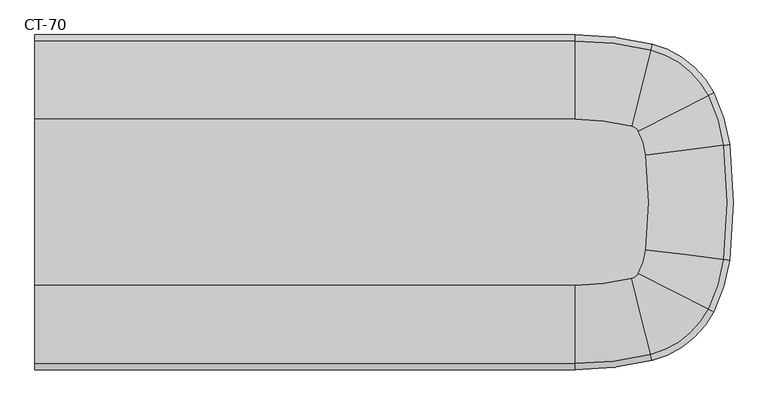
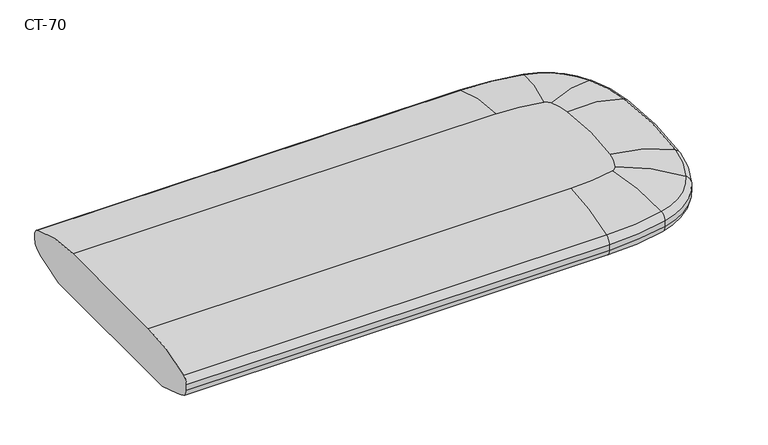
"""IFC4 building model written with IfcOpenShell, lengths in millimetres: furniture geometry, Davis_Furniture-Cantina-Backless_Bench_End : CT-70."""

from ifc_helpers import new_model, si_unit, point, frame, origin, place, context, project, spatial, polyline, circle_curve, ellipse_curve, trimmed, source, transform, mapped, element, save
from ifc_brep_helpers import plane_surface, cylinder_surface, revolved_surface, advanced_brep


def ct_70_ffbafca3(model_context):
    return source(origin(), model_context, "Body", "AdvancedBrep", [
        advanced_brep(
        [(499.6409128, 297.6255583, 384.3379698), (355.6, 315.0780274, 384.3379698), (355.6, 315.0780274, 397.7963214), (499.6409128, 297.6255583, 397.7963214), (497.0605174, 287.1334611, 364.5800367), (355.6, 304.2732811, 364.5800367), (494.2649463, 275.7664417, 358.7017243), (355.6, 292.5675411, 358.7017243), (490.3188196, 259.7211699, 352.9828937), (355.6, 276.0441436, 352.9828937), (475.8562537, 200.9152021, 333.8794297), (355.6, 215.4858439, 333.8794297), (496.8246288, 286.174319, 415.40969), (355.6, 303.2855579, 415.40969), (355.6, 156.3280274, 444.5), (461.728152, 143.4691927, 444.5), (615.3654955, 206.1477202, 397.7963214), (615.3654955, 206.1477202, 384.3379698), (605.7526212, 201.2146491, 364.5800367), (595.3381418, 195.8702156, 358.7017243), (580.637441, 188.3262075, 352.9828937), (526.7593298, 160.6773957, 333.8794297), (474.1272144, 133.6679958, 444.5), (604.8738538, 200.763689, 415.40969), (645.3484189, 108.6770068, 397.7963214), (645.3484189, 108.6770068, 384.3379698), (634.624926, 107.3544169, 364.5800367), (623.0072151, 105.921538, 358.7017243), (606.6080763, 103.8989381, 352.9828937), (546.505185, 96.4861037, 333.8794297), (487.792245, 89.2446999, 444.5), (633.6446307, 107.2335114, 415.40969), (645.3484189, -108.6770068, 397.7963214), (645.3484189, -108.6770068, 384.3379698), (634.624926, -107.3544169, 364.5800367), (623.0072151, -105.921538, 358.7017243), (606.6080763, -103.8989381, 352.9828937), (546.505185, -96.4861037, 333.8794297), (487.792245, -89.2446999, 444.5), (633.6446307, -107.2335114, 415.40969), (615.3654955, -206.1477202, 397.7963214), (615.3654955, -206.1477202, 384.3379698), (605.7526212, -201.2146491, 364.5800367), (595.3381418, -195.8702156, 358.7017243), (580.637441, -188.3262075, 352.9828937), (526.7593298, -160.6773957, 333.8794297), (474.1272144, -133.6679958, 444.5), (604.8738538, -200.763689, 415.40969), (499.6409128, -297.6255583, 397.7963214), (499.6409128, -297.6255583, 384.3379698), (497.0605174, -287.1334611, 364.5800367), (494.2649463, -275.7664417, 358.7017243), (490.3188196, -259.7211699, 352.9828937), (475.8562537, -200.9152021, 333.8794297), (461.728152, -143.4691927, 444.5), (496.8246288, -286.174319, 415.40969), (355.6, -315.0780274, 397.7963214), (355.6, -315.0780274, 384.3379698), (355.6, -304.2732811, 364.5800367), (355.6, -292.5675411, 358.7017243), (355.6, -276.0441436, 352.9828937), (355.6, -215.4858439, 333.8794297), (355.6, -156.3280274, 444.5), (355.6, -303.2855579, 415.40969), (-660.4, -315.0780274, 397.7963214), (-660.4, -315.0780274, 384.3379698), (-660.4, -304.2732811, 364.5800367), (-660.4, -292.5675411, 358.7017243), (-660.4, -276.0441436, 352.9828937), (-660.4, -215.4858439, 333.8794297), (-660.4, -156.3280274, 444.5), (-660.4, -303.2855579, 415.40969), (-660.4, 315.0780274, 384.3379698), (-660.4, 315.0780274, 397.7963214), (-660.4, 304.2732811, 364.5800367), (-660.4, 292.5675411, 358.7017243), (-660.4, 276.0441436, 352.9828937), (-660.4, 215.4858439, 333.8794297), (-660.4, 156.3280274, 444.5), (-660.4, 303.2855579, 415.40969)],
        [
            (0, 1, circle_curve(frame((355.6, -288.0564957, 384.3379698), z_axis=(0.0, 0.0, 1.0), x_axis=(0.0, 1.0, 0.0)), 603.1345231)),
            (1, 2),
            (2, 3, circle_curve(frame((355.6, -288.0564957, 397.7963214), z_axis=(0.0, 0.0, -1.0), x_axis=(0.0, 1.0, 0.0)), 603.1345231)),
            (3, 0),
            (0, 4, circle_curve(frame((494.0364172, 274.8372241, 384.3379698), z_axis=(-0.971063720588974, 0.23882054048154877, 0.0), x_axis=(0.23882054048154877, 0.971063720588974, 0.0)), 23.4673933)),
            (4, 5, circle_curve(frame((355.6, -288.0564957, 364.5800367), z_axis=(0.0, 0.0, 1.0), x_axis=(0.0, 1.0, 0.0)), 592.3297768)),
            (5, 1, circle_curve(frame((355.6, 291.6106342, 384.3379698), z_axis=(1.0, 0.0, 0.0), x_axis=(0.0, 1.0, 0.0)), 23.4673933)),
            (4, 6, circle_curve(frame((488.9739558, 254.2528447, 417.4135188), z_axis=(-0.971063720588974, 0.23882054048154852, 0.0), x_axis=(0.23882054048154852, 0.971063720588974, 0.0)), 62.7527231)),
            (6, 7, circle_curve(frame((355.6, -288.0564957, 358.7017243), z_axis=(0.0, 0.0, 1.0), x_axis=(0.0, 1.0, 0.0)), 580.6240368)),
            (7, 5, circle_curve(frame((355.6, 270.4128703, 417.4135188), z_axis=(1.0, 0.0, 0.0), x_axis=(0.0, 1.0, 0.0)), 62.7527231)),
            (6, 8, circle_curve(frame((467.578551, 167.2573905, 654.8289187), z_axis=(-0.9710637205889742, 0.23882054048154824, 0.0), x_axis=(0.23882054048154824, 0.9710637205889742, 0.0)), 316.5085989)),
            (8, 9, circle_curve(frame((355.6, -288.0564957, 352.9828937), z_axis=(0.0, 0.0, 1.0), x_axis=(0.0, 1.0, 0.0)), 564.1006393)),
            (9, 7, circle_curve(frame((355.6, 180.8250787, 654.8289187), z_axis=(1.0, 0.0, 0.0), x_axis=(0.0, 1.0, 0.0)), 316.5085989)),
            (8, 10),
            (10, 11, circle_curve(frame((355.6, -288.0564957, 333.8794297), z_axis=(0.0, 0.0, 1.0), x_axis=(0.0, 1.0, 0.0)), 503.5423396)),
            (11, 9),
            (12, 13, circle_curve(frame((355.6, -288.0564957, 415.40969), z_axis=(0.0, 0.0, 1.0), x_axis=(0.0, 1.0, 0.0)), 591.3420536)),
            (13, 14, circle_curve(frame((355.6, 156.3280274, 58.7570862), z_axis=(1.0, 0.0, 0.0), x_axis=(0.0, 1.0, 0.0)), 385.7429138)),
            (14, 15, circle_curve(frame((355.6, -288.0564957, 444.5), z_axis=(0.0, 0.0, -1.0), x_axis=(0.0, 1.0, 0.0)), 444.3845231)),
            (15, 12, circle_curve(frame((461.728152, 143.4691927, 58.7570862), z_axis=(-0.971063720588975, 0.2388205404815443, 0.0), x_axis=(0.2388205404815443, 0.971063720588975, 0.0)), 385.7429138)),
            (2, 13, circle_curve(frame((355.6, 296.0280274, 397.7963214), z_axis=(1.0, 0.0, 0.0), x_axis=(0.0, 1.0, 0.0)), 19.05)),
            (12, 3, circle_curve(frame((495.0913815, 279.1267945, 397.7963214), z_axis=(-0.971063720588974, 0.2388205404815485, 0.0), x_axis=(0.2388205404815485, 0.971063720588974, 0.0)), 19.05)),
            (3, 16, circle_curve(frame((457.1786207, 124.9704288, 397.7963214), z_axis=(0.0, 0.0, -1.0), x_axis=(0.2388205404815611, 0.971063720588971, 0.0)), 177.8)),
            (16, 17),
            (17, 0, circle_curve(frame((457.1786207, 124.9704288, 384.3379698), z_axis=(0.0, 0.0, 1.0), x_axis=(0.2388205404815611, 0.971063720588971, 0.0)), 177.8)),
            (17, 18, circle_curve(frame((594.4867914, 195.4333252, 384.3379698), z_axis=(-0.4565651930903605, 0.8896899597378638, 0.0), x_axis=(0.8896899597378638, 0.4565651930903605, 0.0)), 23.4673933)),
            (18, 4, circle_curve(frame((457.1786207, 124.9704288, 364.5800367), z_axis=(0.0, 0.0, 1.0), x_axis=(0.2388205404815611, 0.971063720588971, 0.0)), 166.9952536)),
            (18, 19, circle_curve(frame((575.6273537, 185.7551641, 417.4135188), z_axis=(-0.4565651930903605, 0.8896899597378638, 0.0), x_axis=(0.8896899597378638, 0.4565651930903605, 0.0)), 62.7527231)),
            (19, 6, circle_curve(frame((457.1786207, 124.9704288, 358.7017243), z_axis=(0.0, 0.0, 1.0), x_axis=(0.2388205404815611, 0.971063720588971, 0.0)), 155.2895137)),
            (19, 20, circle_curve(frame((495.921995, 144.8524967, 654.8289187), z_axis=(-0.4565651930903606, 0.8896899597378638, 0.0), x_axis=(0.8896899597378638, 0.4565651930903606, 0.0)), 316.5085989)),
            (20, 8, circle_curve(frame((457.1786207, 124.9704288, 352.9828937), z_axis=(0.0, 0.0, 1.0), x_axis=(0.2388205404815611, 0.971063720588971, 0.0)), 138.7661162)),
            (20, 21),
            (21, 10, circle_curve(frame((457.1786207, 124.9704288, 333.8794297), z_axis=(0.0, 0.0, 1.0), x_axis=(0.2388205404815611, 0.971063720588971, 0.0)), 78.2078165)),
            (15, 22, circle_curve(frame((457.1786207, 124.9704288, 444.5), z_axis=(0.0, 0.0, -1.0), x_axis=(0.2388205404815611, 0.971063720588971, 0.0)), 19.05)),
            (22, 23, circle_curve(frame((474.1272144, 133.6679958, 58.7570862), z_axis=(-0.45656519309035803, 0.8896899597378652, 0.0), x_axis=(0.8896899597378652, 0.45656519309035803, 0.0)), 385.7429138)),
            (23, 12, circle_curve(frame((457.1786207, 124.9704288, 415.40969), z_axis=(0.0, 0.0, 1.0), x_axis=(0.2388205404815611, 0.971063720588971, 0.0)), 166.0075305)),
            (23, 16, circle_curve(frame((598.4169018, 197.4501532, 397.7963214), z_axis=(-0.4565651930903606, 0.8896899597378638, 0.0), x_axis=(0.8896899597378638, 0.4565651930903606, 0.0)), 19.05)),
            (16, 24, circle_curve(frame((355.8505813, 72.9715776, 397.7963214), z_axis=(0.0, 0.0, -1.0), x_axis=(0.8896899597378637, 0.45656519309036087, 0.0)), 291.6914048)),
            (24, 25),
            (25, 17, circle_curve(frame((355.8505813, 72.9715776, 384.3379698), z_axis=(0.0, 0.0, 1.0), x_axis=(0.8896899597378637, 0.45656519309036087, 0.0)), 291.6914048)),
            (25, 26, circle_curve(frame((622.0575043, 105.8044047, 384.3379698), z_axis=(-0.12240823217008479, 0.9924798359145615, 0.0), x_axis=(0.9924798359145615, 0.12240823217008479, 0.0)), 23.4673933)),
            (26, 18, circle_curve(frame((355.8505813, 72.9715776, 364.5800367), z_axis=(0.0, 0.0, 1.0), x_axis=(0.8896899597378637, 0.45656519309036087, 0.0)), 280.8866585)),
            (26, 27, circle_curve(frame((601.0191511, 103.2096239, 417.4135188), z_axis=(-0.12240823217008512, 0.9924798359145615, 0.0), x_axis=(0.9924798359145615, 0.12240823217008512, 0.0)), 62.7527231)),
            (27, 19, circle_curve(frame((355.8505813, 72.9715776, 358.7017243), z_axis=(0.0, 0.0, 1.0), x_axis=(0.8896899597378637, 0.45656519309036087, 0.0)), 269.1809185)),
            (27, 28, circle_curve(frame((512.1050744, 92.2433407, 654.8289187), z_axis=(-0.1224082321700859, 0.9924798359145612, 0.0), x_axis=(0.9924798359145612, 0.1224082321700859, 0.0)), 316.5085989)),
            (28, 20, circle_curve(frame((355.8505813, 72.9715776, 352.9828937), z_axis=(0.0, 0.0, 1.0), x_axis=(0.8896899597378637, 0.45656519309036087, 0.0)), 252.657521)),
            (28, 29),
            (29, 21, circle_curve(frame((355.8505813, 72.9715776, 333.8794297), z_axis=(0.0, 0.0, 1.0), x_axis=(0.8896899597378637, 0.45656519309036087, 0.0)), 192.0992213)),
            (22, 30, circle_curve(frame((355.8505813, 72.9715776, 444.5), z_axis=(0.0, 0.0, -1.0), x_axis=(0.8896899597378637, 0.45656519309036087, 0.0)), 132.9414048)),
            (30, 31, circle_curve(frame((487.792245, 89.2446999, 58.7570862), z_axis=(-0.12240823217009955, 0.9924798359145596, 0.0), x_axis=(0.9924798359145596, 0.12240823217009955, 0.0)), 385.7429138)),
            (31, 23, circle_curve(frame((355.8505813, 72.9715776, 415.40969), z_axis=(0.0, 0.0, 1.0), x_axis=(0.8896899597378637, 0.45656519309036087, 0.0)), 279.8989353)),
            (31, 24, circle_curve(frame((626.441678, 106.34513, 397.7963214), z_axis=(-0.12240823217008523, 0.9924798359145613, 0.0), x_axis=(0.9924798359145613, 0.12240823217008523, 0.0)), 19.05)),
            (24, 32, circle_curve(frame((-235.7993271, 0.0, 397.7963214), z_axis=(0.0, 0.0, -1.0), x_axis=(0.9924798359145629, 0.12240823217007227, 0.0)), 887.8243307)),
            (32, 33),
            (33, 25, circle_curve(frame((-235.7993271, 0.0, 384.3379698), z_axis=(0.0, 0.0, 1.0), x_axis=(0.9924798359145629, 0.12240823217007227, 0.0)), 887.8243307)),
            (33, 34, circle_curve(frame((622.0575043, -105.8044047, 384.3379698), z_axis=(0.12240823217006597, 0.9924798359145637, 0.0), x_axis=(0.9924798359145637, -0.12240823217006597, 0.0)), 23.4673933)),
            (34, 26, circle_curve(frame((-235.7993271, 0.0, 364.5800367), z_axis=(0.0, 0.0, 1.0), x_axis=(0.9924798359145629, 0.12240823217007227, 0.0)), 877.0195843)),
            (34, 35, circle_curve(frame((601.0191511, -103.2096239, 417.4135188), z_axis=(0.12240823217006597, 0.9924798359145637, 0.0), x_axis=(0.9924798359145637, -0.12240823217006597, 0.0)), 62.7527231)),
            (35, 27, circle_curve(frame((-235.7993271, 0.0, 358.7017243), z_axis=(0.0, 0.0, 1.0), x_axis=(0.9924798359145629, 0.12240823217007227, 0.0)), 865.3138443)),
            (35, 36, circle_curve(frame((512.1050744, -92.2433407, 654.8289187), z_axis=(0.12240823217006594, 0.9924798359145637, 0.0), x_axis=(0.9924798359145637, -0.12240823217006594, 0.0)), 316.5085989)),
            (36, 28, circle_curve(frame((-235.7993271, 0.0, 352.9828937), z_axis=(0.0, 0.0, 1.0), x_axis=(0.9924798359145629, 0.12240823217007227, 0.0)), 848.7904469)),
            (36, 37),
            (37, 29, circle_curve(frame((-235.7993271, 0.0, 333.8794297), z_axis=(0.0, 0.0, 1.0), x_axis=(0.9924798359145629, 0.12240823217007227, 0.0)), 788.2321471)),
            (30, 38, circle_curve(frame((-235.7993271, 0.0, 444.5), z_axis=(0.0, 0.0, -1.0), x_axis=(0.9924798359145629, 0.12240823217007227, 0.0)), 729.0743307)),
            (38, 39, circle_curve(frame((487.792245, -89.2446999, 58.7570862), z_axis=(0.12240823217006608, 0.9924798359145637, 0.0), x_axis=(0.9924798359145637, -0.12240823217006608, 0.0)), 385.7429138)),
            (39, 31, circle_curve(frame((-235.7993271, 0.0, 415.40969), z_axis=(0.0, 0.0, 1.0), x_axis=(0.9924798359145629, 0.12240823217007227, 0.0)), 876.0318611)),
            (39, 32, circle_curve(frame((626.441678, -106.34513, 397.7963214), z_axis=(0.12240823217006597, 0.9924798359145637, 0.0), x_axis=(0.9924798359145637, -0.12240823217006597, 0.0)), 19.05)),
            (32, 40, circle_curve(frame((355.8505813, -72.9715776, 397.7963214), z_axis=(0.0, 0.0, -1.0), x_axis=(0.9924798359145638, -0.12240823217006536, 0.0)), 291.6914048)),
            (40, 41),
            (41, 33, circle_curve(frame((355.8505813, -72.9715776, 384.3379698), z_axis=(0.0, 0.0, 1.0), x_axis=(0.9924798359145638, -0.12240823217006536, 0.0)), 291.6914048)),
            (41, 42, circle_curve(frame((594.4867914, -195.4333252, 384.3379698), z_axis=(0.4565651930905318, 0.8896899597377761, 0.0), x_axis=(0.8896899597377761, -0.4565651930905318, 0.0)), 23.4673933)),
            (42, 34, circle_curve(frame((355.8505813, -72.9715776, 364.5800367), z_axis=(0.0, 0.0, 1.0), x_axis=(0.9924798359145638, -0.12240823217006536, 0.0)), 280.8866585)),
            (42, 43, circle_curve(frame((575.6273537, -185.7551641, 417.4135188), z_axis=(0.4565651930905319, 0.889689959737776, 0.0), x_axis=(0.889689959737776, -0.4565651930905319, 0.0)), 62.7527231)),
            (43, 35, circle_curve(frame((355.8505813, -72.9715776, 358.7017243), z_axis=(0.0, 0.0, 1.0), x_axis=(0.9924798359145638, -0.12240823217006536, 0.0)), 269.1809185)),
            (43, 44, circle_curve(frame((495.921995, -144.8524967, 654.8289187), z_axis=(0.4565651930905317, 0.8896899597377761, 0.0), x_axis=(0.8896899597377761, -0.4565651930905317, 0.0)), 316.5085989)),
            (44, 36, circle_curve(frame((355.8505813, -72.9715776, 352.9828937), z_axis=(0.0, 0.0, 1.0), x_axis=(0.9924798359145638, -0.12240823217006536, 0.0)), 252.657521)),
            (44, 45),
            (45, 37, circle_curve(frame((355.8505813, -72.9715776, 333.8794297), z_axis=(0.0, 0.0, 1.0), x_axis=(0.9924798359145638, -0.12240823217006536, 0.0)), 192.0992213)),
            (38, 46, circle_curve(frame((355.8505813, -72.9715776, 444.5), z_axis=(0.0, 0.0, -1.0), x_axis=(0.9924798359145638, -0.12240823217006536, 0.0)), 132.9414048)),
            (46, 47, circle_curve(frame((474.1272144, -133.6679958, 58.7570862), z_axis=(0.4565651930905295, 0.8896899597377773, 0.0), x_axis=(0.8896899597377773, -0.4565651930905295, 0.0)), 385.7429138)),
            (47, 39, circle_curve(frame((355.8505813, -72.9715776, 415.40969), z_axis=(0.0, 0.0, 1.0), x_axis=(0.9924798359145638, -0.12240823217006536, 0.0)), 279.8989353)),
            (47, 40, circle_curve(frame((598.4169018, -197.4501532, 397.7963214), z_axis=(0.45656519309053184, 0.8896899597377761, 0.0), x_axis=(0.8896899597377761, -0.45656519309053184, 0.0)), 19.05)),
            (40, 48, circle_curve(frame((457.1786207, -124.9704288, 397.7963214), z_axis=(0.0, 0.0, -1.0), x_axis=(0.8896899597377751, -0.45656519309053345, 0.0)), 177.8)),
            (48, 49),
            (49, 41, circle_curve(frame((457.1786207, -124.9704288, 384.3379698), z_axis=(0.0, 0.0, 1.0), x_axis=(0.8896899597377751, -0.45656519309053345, 0.0)), 177.8)),
            (49, 50, circle_curve(frame((494.0364172, -274.8372241, 384.3379698), z_axis=(0.9710637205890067, 0.23882054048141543, 0.0), x_axis=(0.23882054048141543, -0.9710637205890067, 0.0)), 23.4673933)),
            (50, 42, circle_curve(frame((457.1786207, -124.9704288, 364.5800367), z_axis=(0.0, 0.0, 1.0), x_axis=(0.8896899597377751, -0.45656519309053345, 0.0)), 166.9952536)),
            (50, 51, circle_curve(frame((488.9739558, -254.2528447, 417.4135188), z_axis=(0.9710637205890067, 0.23882054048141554, 0.0), x_axis=(0.23882054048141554, -0.9710637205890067, 0.0)), 62.7527231)),
            (51, 43, circle_curve(frame((457.1786207, -124.9704288, 358.7017243), z_axis=(0.0, 0.0, 1.0), x_axis=(0.8896899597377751, -0.45656519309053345, 0.0)), 155.2895137)),
            (51, 52, circle_curve(frame((467.578551, -167.2573905, 654.8289187), z_axis=(0.9710637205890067, 0.23882054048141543, 0.0), x_axis=(0.23882054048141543, -0.9710637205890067, 0.0)), 316.5085989)),
            (52, 44, circle_curve(frame((457.1786207, -124.9704288, 352.9828937), z_axis=(0.0, 0.0, 1.0), x_axis=(0.8896899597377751, -0.45656519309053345, 0.0)), 138.7661162)),
            (52, 53),
            (53, 45, circle_curve(frame((457.1786207, -124.9704288, 333.8794297), z_axis=(0.0, 0.0, 1.0), x_axis=(0.8896899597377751, -0.45656519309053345, 0.0)), 78.2078165)),
            (46, 54, circle_curve(frame((457.1786207, -124.9704288, 444.5), z_axis=(0.0, 0.0, -1.0), x_axis=(0.8896899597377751, -0.45656519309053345, 0.0)), 19.05)),
            (54, 55, circle_curve(frame((461.728152, -143.4691927, 58.7570862), z_axis=(0.9710637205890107, 0.23882054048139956, 0.0), x_axis=(0.23882054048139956, -0.9710637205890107, 0.0)), 385.7429138)),
            (55, 47, circle_curve(frame((457.1786207, -124.9704288, 415.40969), z_axis=(0.0, 0.0, 1.0), x_axis=(0.8896899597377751, -0.45656519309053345, 0.0)), 166.0075305)),
            (55, 48, circle_curve(frame((495.0913815, -279.1267945, 397.7963214), z_axis=(0.9710637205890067, 0.23882054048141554, 0.0), x_axis=(0.23882054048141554, -0.9710637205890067, 0.0)), 19.05)),
            (48, 56, circle_curve(frame((355.6, 288.0564957, 397.7963214), z_axis=(0.0, 0.0, -1.0), x_axis=(0.23882054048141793, -0.9710637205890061, 0.0)), 603.1345231)),
            (56, 57),
            (57, 49, circle_curve(frame((355.6, 288.0564957, 384.3379698), z_axis=(0.0, 0.0, 1.0), x_axis=(0.23882054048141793, -0.9710637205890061, 0.0)), 603.1345231)),
            (57, 58, circle_curve(frame((355.6, -291.6106342, 384.3379698), z_axis=(1.0, 0.0, 0.0), x_axis=(0.0, -1.0, 0.0)), 23.4673933)),
            (58, 50, circle_curve(frame((355.6, 288.0564957, 364.5800367), z_axis=(0.0, 0.0, 1.0), x_axis=(0.23882054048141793, -0.9710637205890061, 0.0)), 592.3297768)),
            (58, 59, circle_curve(frame((355.6, -270.4128703, 417.4135188), z_axis=(1.0, 0.0, 0.0), x_axis=(0.0, -1.0, 0.0)), 62.7527231)),
            (59, 51, circle_curve(frame((355.6, 288.0564957, 358.7017243), z_axis=(0.0, 0.0, 1.0), x_axis=(0.23882054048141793, -0.9710637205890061, 0.0)), 580.6240368)),
            (59, 60, circle_curve(frame((355.6, -180.8250787, 654.8289187), z_axis=(1.0, 0.0, 0.0), x_axis=(0.0, -1.0, 0.0)), 316.5085989)),
            (60, 52, circle_curve(frame((355.6, 288.0564957, 352.9828937), z_axis=(0.0, 0.0, 1.0), x_axis=(0.23882054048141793, -0.9710637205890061, 0.0)), 564.1006393)),
            (60, 61),
            (61, 53, circle_curve(frame((355.6, 288.0564957, 333.8794297), z_axis=(0.0, 0.0, 1.0), x_axis=(0.23882054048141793, -0.9710637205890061, 0.0)), 503.5423396)),
            (54, 62, circle_curve(frame((355.6, 288.0564957, 444.5), z_axis=(0.0, 0.0, -1.0), x_axis=(0.23882054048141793, -0.9710637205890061, 0.0)), 444.3845231)),
            (62, 63, circle_curve(frame((355.6, -156.3280274, 58.7570862), z_axis=(1.0, 0.0, 0.0), x_axis=(0.0, -1.0, 0.0)), 385.7429138)),
            (63, 55, circle_curve(frame((355.6, 288.0564957, 415.40969), z_axis=(0.0, 0.0, 1.0), x_axis=(0.23882054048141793, -0.9710637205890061, 0.0)), 591.3420536)),
            (63, 56, circle_curve(frame((355.6, -296.0280274, 397.7963214), z_axis=(1.0, 0.0, 0.0), x_axis=(0.0, -1.0, 0.0)), 19.05)),
            (56, 64),
            (64, 65),
            (65, 57),
            (65, 66, circle_curve(frame((-660.4, -291.6106342, 384.3379698), z_axis=(1.0, 0.0, 0.0), x_axis=(0.0, -1.0, 0.0)), 23.4673933)),
            (66, 58),
            (66, 67, circle_curve(frame((-660.4, -270.4128703, 417.4135188), z_axis=(1.0, 0.0, 0.0), x_axis=(0.0, -1.0, 0.0)), 62.7527231)),
            (67, 59),
            (67, 68, circle_curve(frame((-660.4, -180.8250787, 654.8289187), z_axis=(1.0, 0.0, 0.0), x_axis=(0.0, -1.0, 0.0)), 316.5085989)),
            (68, 60),
            (68, 69),
            (69, 61),
            (62, 70),
            (70, 71, circle_curve(frame((-660.4, -156.3280274, 58.7570862), z_axis=(1.0, 0.0, 0.0), x_axis=(0.0, -1.0, 0.0)), 385.7429138)),
            (71, 63),
            (71, 64, circle_curve(frame((-660.4, -296.0280274, 397.7963214), z_axis=(1.0, 0.0, 0.0), x_axis=(0.0, -1.0, 0.0)), 19.05)),
            (1, 72),
            (72, 73),
            (73, 2),
            (5, 74),
            (74, 72, circle_curve(frame((-660.4, 291.6106342, 384.3379698), z_axis=(1.0, 0.0, 0.0), x_axis=(0.0, 1.0, 0.0)), 23.4673933)),
            (7, 75),
            (75, 74, circle_curve(frame((-660.4, 270.4128703, 417.4135188), z_axis=(1.0, 0.0, 0.0), x_axis=(0.0, 1.0, 0.0)), 62.7527231)),
            (9, 76),
            (76, 75, circle_curve(frame((-660.4, 180.8250787, 654.8289187), z_axis=(1.0, 0.0, 0.0), x_axis=(0.0, 1.0, 0.0)), 316.5085989)),
            (11, 77),
            (77, 76),
            (69, 77),
            (14, 78),
            (78, 70),
            (13, 79),
            (79, 78, circle_curve(frame((-660.4, 156.3280274, 58.7570862), z_axis=(1.0, 0.0, 0.0), x_axis=(0.0, 1.0, 0.0)), 385.7429138)),
            (73, 79, circle_curve(frame((-660.4, 296.0280274, 397.7963214), z_axis=(1.0, 0.0, 0.0), x_axis=(0.0, 1.0, 0.0)), 19.05)),
        ],
        [
            cylinder_surface(frame((355.6, -288.0564957, 0.0), z_axis=(0.0, 0.0, -1.0), x_axis=(0.0, 1.0, 0.0)), 603.1345231),
            revolved_surface(trimmed(ellipse_curve(frame((355.6, 291.6106342, 384.3379698), z_axis=(-1.0, 0.0, 0.0), x_axis=(0.0, 1.0, 0.0)), 23.4673933, 23.4673933), [point((355.6, 315.0780274, 384.3379698))], [point((355.6, 304.2732811, 364.5800367))], True, "CARTESIAN"), (355.6, -288.0564957, 0.0), (0.0, 0.0, -1.0)),
            revolved_surface(trimmed(ellipse_curve(frame((355.6, 270.4128703, 417.4135188), z_axis=(-1.0, 0.0, 0.0), x_axis=(0.0, 1.0, 0.0)), 62.7527231, 62.7527231), [point((355.6, 304.2732811, 364.5800367))], [point((355.6, 292.5675411, 358.7017243))], True, "CARTESIAN"), (355.6, -288.0564957, 0.0), (0.0, 0.0, -1.0)),
            revolved_surface(trimmed(ellipse_curve(frame((355.6, 180.8250787, 654.8289187), z_axis=(-1.0, 0.0, 0.0), x_axis=(0.0, 1.0, 0.0)), 316.5085989, 316.5085989), [point((355.6, 292.5675411, 358.7017243))], [point((355.6, 276.0441436, 352.9828937))], True, "CARTESIAN"), (355.6, -288.0564957, 0.0), (0.0, 0.0, -1.0)),
            revolved_surface(polyline([(355.6, 276.0441436, 352.9828937), (355.6, 215.4858439, 333.8794297)]), (355.6, -288.0564957, 0.0), (0.0, 0.0, -1.0)),
            revolved_surface(trimmed(ellipse_curve(frame((355.6, 156.3280274, 58.7570862), z_axis=(-1.0, 0.0, 0.0), x_axis=(0.0, 1.0, 0.0)), 385.7429138, 385.7429138), [point((355.6, 156.3280274, 444.5))], [point((355.6, 303.2855579, 415.40969))], True, "CARTESIAN"), (355.6, -288.0564957, 0.0), (0.0, 0.0, -1.0)),
            revolved_surface(trimmed(ellipse_curve(frame((355.6, 296.0280274, 397.7963214), z_axis=(-1.0, 0.0, 0.0), x_axis=(0.0, 1.0, 0.0)), 19.05, 19.05), [point((355.6, 303.2855579, 415.40969))], [point((355.6, 315.0780274, 397.7963214))], True, "CARTESIAN"), (355.6, -288.0564957, 0.0), (0.0, 0.0, -1.0)),
            cylinder_surface(frame((457.1786207, 124.9704288, 0.0), z_axis=(0.0, 0.0, -1.0), x_axis=(0.2388205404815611, 0.971063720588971, 0.0)), 177.8),
            revolved_surface(trimmed(ellipse_curve(frame((494.0364172, 274.8372241, 384.3379698), z_axis=(-0.971063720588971, 0.23882054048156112, 0.0), x_axis=(0.23882054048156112, 0.971063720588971, 0.0)), 23.4673933, 23.4673933), [point((499.6409128, 297.6255583, 384.3379698))], [point((497.0605174, 287.1334611, 364.5800367))], True, "CARTESIAN"), (457.1786207, 124.9704288, 0.0), (0.0, 0.0, -1.0)),
            revolved_surface(trimmed(ellipse_curve(frame((488.9739558, 254.2528447, 417.4135188), z_axis=(-0.971063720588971, 0.23882054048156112, 0.0), x_axis=(0.23882054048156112, 0.971063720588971, 0.0)), 62.7527231, 62.7527231), [point((497.0605174, 287.1334611, 364.5800367))], [point((494.2649463, 275.7664417, 358.7017243))], True, "CARTESIAN"), (457.1786207, 124.9704288, 0.0), (0.0, 0.0, -1.0)),
            revolved_surface(trimmed(ellipse_curve(frame((467.578551, 167.2573905, 654.8289187), z_axis=(-0.971063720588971, 0.23882054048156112, 0.0), x_axis=(0.23882054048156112, 0.971063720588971, 0.0)), 316.5085989, 316.5085989), [point((494.2649463, 275.7664417, 358.7017243))], [point((490.3188196, 259.7211699, 352.9828937))], True, "CARTESIAN"), (457.1786207, 124.9704288, 0.0), (0.0, 0.0, -1.0)),
            revolved_surface(polyline([(490.3188196, 259.7211699, 352.9828937), (475.8562537, 200.9152021, 333.8794297)]), (457.1786207, 124.9704288, 0.0), (0.0, 0.0, -1.0)),
            revolved_surface(trimmed(ellipse_curve(frame((461.728152, 143.4691927, 58.7570862), z_axis=(-0.971063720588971, 0.23882054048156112, 0.0), x_axis=(0.23882054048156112, 0.971063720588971, 0.0)), 385.7429138, 385.7429138), [point((461.728152, 143.4691927, 444.5))], [point((496.8246288, 286.174319, 415.40969))], True, "CARTESIAN"), (457.1786207, 124.9704288, 0.0), (0.0, 0.0, -1.0)),
            revolved_surface(trimmed(ellipse_curve(frame((495.0913815, 279.1267945, 397.7963214), z_axis=(-0.971063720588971, 0.23882054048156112, 0.0), x_axis=(0.23882054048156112, 0.971063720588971, 0.0)), 19.05, 19.05), [point((496.8246288, 286.174319, 415.40969))], [point((499.6409128, 297.6255583, 397.7963214))], True, "CARTESIAN"), (457.1786207, 124.9704288, 0.0), (0.0, 0.0, -1.0)),
            cylinder_surface(frame((355.8505813, 72.9715776, 0.0), z_axis=(0.0, 0.0, -1.0), x_axis=(0.8896899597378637, 0.45656519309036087, 0.0)), 291.6914048),
            revolved_surface(trimmed(ellipse_curve(frame((594.4867914, 195.4333252, 384.3379698), z_axis=(-0.4565651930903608, 0.8896899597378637, 0.0), x_axis=(0.8896899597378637, 0.4565651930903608, 0.0)), 23.4673933, 23.4673933), [point((615.3654955, 206.1477202, 384.3379698))], [point((605.7526212, 201.2146491, 364.5800367))], True, "CARTESIAN"), (355.8505813, 72.9715776, 0.0), (0.0, 0.0, -1.0)),
            revolved_surface(trimmed(ellipse_curve(frame((575.6273537, 185.7551641, 417.4135188), z_axis=(-0.4565651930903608, 0.8896899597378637, 0.0), x_axis=(0.8896899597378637, 0.4565651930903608, 0.0)), 62.7527231, 62.7527231), [point((605.7526212, 201.2146491, 364.5800367))], [point((595.3381418, 195.8702156, 358.7017243))], True, "CARTESIAN"), (355.8505813, 72.9715776, 0.0), (0.0, 0.0, -1.0)),
            revolved_surface(trimmed(ellipse_curve(frame((495.921995, 144.8524967, 654.8289187), z_axis=(-0.4565651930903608, 0.8896899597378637, 0.0), x_axis=(0.8896899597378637, 0.4565651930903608, 0.0)), 316.5085989, 316.5085989), [point((595.3381418, 195.8702156, 358.7017243))], [point((580.637441, 188.3262075, 352.9828937))], True, "CARTESIAN"), (355.8505813, 72.9715776, 0.0), (0.0, 0.0, -1.0)),
            revolved_surface(polyline([(580.637441, 188.3262075, 352.9828937), (526.7593298, 160.6773957, 333.8794297)]), (355.8505813, 72.9715776, 0.0), (0.0, 0.0, -1.0)),
            revolved_surface(trimmed(ellipse_curve(frame((474.1272144, 133.6679958, 58.7570862), z_axis=(-0.4565651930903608, 0.8896899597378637, 0.0), x_axis=(0.8896899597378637, 0.4565651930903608, 0.0)), 385.7429138, 385.7429138), [point((474.1272144, 133.6679958, 444.5))], [point((604.8738538, 200.763689, 415.40969))], True, "CARTESIAN"), (355.8505813, 72.9715776, 0.0), (0.0, 0.0, -1.0)),
            revolved_surface(trimmed(ellipse_curve(frame((598.4169018, 197.4501532, 397.7963214), z_axis=(-0.4565651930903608, 0.8896899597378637, 0.0), x_axis=(0.8896899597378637, 0.4565651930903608, 0.0)), 19.05, 19.05), [point((604.8738538, 200.763689, 415.40969))], [point((615.3654955, 206.1477202, 397.7963214))], True, "CARTESIAN"), (355.8505813, 72.9715776, 0.0), (0.0, 0.0, -1.0)),
            cylinder_surface(frame((-235.7993271, 0.0, 0.0), z_axis=(0.0, 0.0, -1.0), x_axis=(0.9924798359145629, 0.12240823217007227, 0.0)), 887.8243307),
            revolved_surface(trimmed(ellipse_curve(frame((622.0575043, 105.8044047, 384.3379698), z_axis=(-0.1224082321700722, 0.9924798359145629, 0.0), x_axis=(0.9924798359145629, 0.1224082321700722, 0.0)), 23.4673933, 23.4673933), [point((645.3484189, 108.6770068, 384.3379698))], [point((634.624926, 107.3544169, 364.5800367))], True, "CARTESIAN"), (-235.7993271, 0.0, 0.0), (0.0, 0.0, -1.0)),
            revolved_surface(trimmed(ellipse_curve(frame((601.0191511, 103.2096239, 417.4135188), z_axis=(-0.1224082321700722, 0.9924798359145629, 0.0), x_axis=(0.9924798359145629, 0.1224082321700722, 0.0)), 62.7527231, 62.7527231), [point((634.624926, 107.3544169, 364.5800367))], [point((623.0072151, 105.921538, 358.7017243))], True, "CARTESIAN"), (-235.7993271, 0.0, 0.0), (0.0, 0.0, -1.0)),
            revolved_surface(trimmed(ellipse_curve(frame((512.1050744, 92.2433407, 654.8289187), z_axis=(-0.1224082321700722, 0.9924798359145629, 0.0), x_axis=(0.9924798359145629, 0.1224082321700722, 0.0)), 316.5085989, 316.5085989), [point((623.0072151, 105.921538, 358.7017243))], [point((606.6080763, 103.8989381, 352.9828937))], True, "CARTESIAN"), (-235.7993271, 0.0, 0.0), (0.0, 0.0, -1.0)),
            revolved_surface(polyline([(606.6080763, 103.8989381, 352.9828937), (546.505185, 96.4861037, 333.8794297)]), (-235.7993271, 0.0, 0.0), (0.0, 0.0, -1.0)),
            revolved_surface(trimmed(ellipse_curve(frame((487.792245, 89.2446999, 58.7570862), z_axis=(-0.1224082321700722, 0.9924798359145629, 0.0), x_axis=(0.9924798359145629, 0.1224082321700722, 0.0)), 385.7429138, 385.7429138), [point((487.792245, 89.2446999, 444.5))], [point((633.6446307, 107.2335114, 415.40969))], True, "CARTESIAN"), (-235.7993271, 0.0, 0.0), (0.0, 0.0, -1.0)),
            revolved_surface(trimmed(ellipse_curve(frame((626.441678, 106.34513, 397.7963214), z_axis=(-0.1224082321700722, 0.9924798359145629, 0.0), x_axis=(0.9924798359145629, 0.1224082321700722, 0.0)), 19.05, 19.05), [point((633.6446307, 107.2335114, 415.40969))], [point((645.3484189, 108.6770068, 397.7963214))], True, "CARTESIAN"), (-235.7993271, 0.0, 0.0), (0.0, 0.0, -1.0)),
            cylinder_surface(frame((355.8505813, -72.9715776, 0.0), z_axis=(0.0, 0.0, -1.0), x_axis=(0.9924798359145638, -0.12240823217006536, 0.0)), 291.6914048),
            revolved_surface(trimmed(ellipse_curve(frame((622.0575043, -105.8044047, 384.3379698), z_axis=(0.12240823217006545, 0.9924798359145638, 0.0), x_axis=(0.9924798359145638, -0.12240823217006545, 0.0)), 23.4673933, 23.4673933), [point((645.3484189, -108.6770068, 384.3379698))], [point((634.624926, -107.3544169, 364.5800367))], True, "CARTESIAN"), (355.8505813, -72.9715776, 0.0), (0.0, 0.0, -1.0)),
            revolved_surface(trimmed(ellipse_curve(frame((601.0191511, -103.2096239, 417.4135188), z_axis=(0.12240823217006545, 0.9924798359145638, 0.0), x_axis=(0.9924798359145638, -0.12240823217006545, 0.0)), 62.7527231, 62.7527231), [point((634.624926, -107.3544169, 364.5800367))], [point((623.0072151, -105.921538, 358.7017243))], True, "CARTESIAN"), (355.8505813, -72.9715776, 0.0), (0.0, 0.0, -1.0)),
            revolved_surface(trimmed(ellipse_curve(frame((512.1050744, -92.2433407, 654.8289187), z_axis=(0.12240823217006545, 0.9924798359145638, 0.0), x_axis=(0.9924798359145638, -0.12240823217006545, 0.0)), 316.5085989, 316.5085989), [point((623.0072151, -105.921538, 358.7017243))], [point((606.6080763, -103.8989381, 352.9828937))], True, "CARTESIAN"), (355.8505813, -72.9715776, 0.0), (0.0, 0.0, -1.0)),
            revolved_surface(polyline([(606.6080763, -103.8989381, 352.9828937), (546.505185, -96.4861037, 333.8794297)]), (355.8505813, -72.9715776, 0.0), (0.0, 0.0, -1.0)),
            revolved_surface(trimmed(ellipse_curve(frame((487.792245, -89.2446999, 58.7570862), z_axis=(0.12240823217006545, 0.9924798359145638, 0.0), x_axis=(0.9924798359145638, -0.12240823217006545, 0.0)), 385.7429138, 385.7429138), [point((487.792245, -89.2446999, 444.5))], [point((633.6446307, -107.2335114, 415.40969))], True, "CARTESIAN"), (355.8505813, -72.9715776, 0.0), (0.0, 0.0, -1.0)),
            revolved_surface(trimmed(ellipse_curve(frame((626.441678, -106.34513, 397.7963214), z_axis=(0.12240823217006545, 0.9924798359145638, 0.0), x_axis=(0.9924798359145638, -0.12240823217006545, 0.0)), 19.05, 19.05), [point((633.6446307, -107.2335114, 415.40969))], [point((645.3484189, -108.6770068, 397.7963214))], True, "CARTESIAN"), (355.8505813, -72.9715776, 0.0), (0.0, 0.0, -1.0)),
            cylinder_surface(frame((457.1786207, -124.9704288, 0.0), z_axis=(0.0, 0.0, -1.0), x_axis=(0.8896899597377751, -0.45656519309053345, 0.0)), 177.8),
            revolved_surface(trimmed(ellipse_curve(frame((594.4867914, -195.4333252, 384.3379698), z_axis=(0.45656519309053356, 0.8896899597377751, 0.0), x_axis=(0.8896899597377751, -0.45656519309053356, 0.0)), 23.4673933, 23.4673933), [point((615.3654955, -206.1477202, 384.3379698))], [point((605.7526212, -201.2146491, 364.5800367))], True, "CARTESIAN"), (457.1786207, -124.9704288, 0.0), (0.0, 0.0, -1.0)),
            revolved_surface(trimmed(ellipse_curve(frame((575.6273537, -185.7551641, 417.4135188), z_axis=(0.45656519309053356, 0.8896899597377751, 0.0), x_axis=(0.8896899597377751, -0.45656519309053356, 0.0)), 62.7527231, 62.7527231), [point((605.7526212, -201.2146491, 364.5800367))], [point((595.3381418, -195.8702156, 358.7017243))], True, "CARTESIAN"), (457.1786207, -124.9704288, 0.0), (0.0, 0.0, -1.0)),
            revolved_surface(trimmed(ellipse_curve(frame((495.921995, -144.8524967, 654.8289187), z_axis=(0.45656519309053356, 0.8896899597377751, 0.0), x_axis=(0.8896899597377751, -0.45656519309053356, 0.0)), 316.5085989, 316.5085989), [point((595.3381418, -195.8702156, 358.7017243))], [point((580.637441, -188.3262075, 352.9828937))], True, "CARTESIAN"), (457.1786207, -124.9704288, 0.0), (0.0, 0.0, -1.0)),
            revolved_surface(polyline([(580.637441, -188.3262075, 352.9828937), (526.7593298, -160.6773957, 333.8794297)]), (457.1786207, -124.9704288, 0.0), (0.0, 0.0, -1.0)),
            revolved_surface(trimmed(ellipse_curve(frame((474.1272144, -133.6679958, 58.7570862), z_axis=(0.45656519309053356, 0.8896899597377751, 0.0), x_axis=(0.8896899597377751, -0.45656519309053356, 0.0)), 385.7429138, 385.7429138), [point((474.1272144, -133.6679958, 444.5))], [point((604.8738538, -200.763689, 415.40969))], True, "CARTESIAN"), (457.1786207, -124.9704288, 0.0), (0.0, 0.0, -1.0)),
            revolved_surface(trimmed(ellipse_curve(frame((598.4169018, -197.4501532, 397.7963214), z_axis=(0.45656519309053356, 0.8896899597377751, 0.0), x_axis=(0.8896899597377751, -0.45656519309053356, 0.0)), 19.05, 19.05), [point((604.8738538, -200.763689, 415.40969))], [point((615.3654955, -206.1477202, 397.7963214))], True, "CARTESIAN"), (457.1786207, -124.9704288, 0.0), (0.0, 0.0, -1.0)),
            cylinder_surface(frame((355.6, 288.0564957, 0.0), z_axis=(0.0, 0.0, -1.0), x_axis=(0.23882054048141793, -0.9710637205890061, 0.0)), 603.1345231),
            revolved_surface(trimmed(ellipse_curve(frame((494.0364172, -274.8372241, 384.3379698), z_axis=(0.9710637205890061, 0.23882054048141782, 0.0), x_axis=(0.23882054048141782, -0.9710637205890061, 0.0)), 23.4673933, 23.4673933), [point((499.6409128, -297.6255583, 384.3379698))], [point((497.0605174, -287.1334611, 364.5800367))], True, "CARTESIAN"), (355.6, 288.0564957, 0.0), (0.0, 0.0, -1.0)),
            revolved_surface(trimmed(ellipse_curve(frame((488.9739558, -254.2528447, 417.4135188), z_axis=(0.9710637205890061, 0.23882054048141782, 0.0), x_axis=(0.23882054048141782, -0.9710637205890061, 0.0)), 62.7527231, 62.7527231), [point((497.0605174, -287.1334611, 364.5800367))], [point((494.2649463, -275.7664417, 358.7017243))], True, "CARTESIAN"), (355.6, 288.0564957, 0.0), (0.0, 0.0, -1.0)),
            revolved_surface(trimmed(ellipse_curve(frame((467.578551, -167.2573905, 654.8289187), z_axis=(0.9710637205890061, 0.23882054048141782, 0.0), x_axis=(0.23882054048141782, -0.9710637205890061, 0.0)), 316.5085989, 316.5085989), [point((494.2649463, -275.7664417, 358.7017243))], [point((490.3188196, -259.7211699, 352.9828937))], True, "CARTESIAN"), (355.6, 288.0564957, 0.0), (0.0, 0.0, -1.0)),
            revolved_surface(polyline([(490.3188196, -259.7211699, 352.9828937), (475.8562537, -200.9152021, 333.8794297)]), (355.6, 288.0564957, 0.0), (0.0, 0.0, -1.0)),
            revolved_surface(trimmed(ellipse_curve(frame((461.728152, -143.4691927, 58.7570862), z_axis=(0.9710637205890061, 0.23882054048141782, 0.0), x_axis=(0.23882054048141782, -0.9710637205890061, 0.0)), 385.7429138, 385.7429138), [point((461.728152, -143.4691927, 444.5))], [point((496.8246288, -286.174319, 415.40969))], True, "CARTESIAN"), (355.6, 288.0564957, 0.0), (0.0, 0.0, -1.0)),
            revolved_surface(trimmed(ellipse_curve(frame((495.0913815, -279.1267945, 397.7963214), z_axis=(0.9710637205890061, 0.23882054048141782, 0.0), x_axis=(0.23882054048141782, -0.9710637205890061, 0.0)), 19.05, 19.05), [point((496.8246288, -286.174319, 415.40969))], [point((499.6409128, -297.6255583, 397.7963214))], True, "CARTESIAN"), (355.6, 288.0564957, 0.0), (0.0, 0.0, -1.0)),
            plane_surface(frame((355.6, -315.0780274, 397.7963214), z_axis=(0.0, -1.0, 0.0), x_axis=(-1.0, 0.0, 0.0))),
            cylinder_surface(frame((355.6, -291.6106342, 384.3379698), z_axis=(1.0, 0.0, 0.0), x_axis=(0.0, -1.0, 0.0)), 23.4673933),
            cylinder_surface(frame((355.6, -270.4128703, 417.4135188), z_axis=(1.0, 0.0, 0.0), x_axis=(0.0, -1.0, 0.0)), 62.7527231),
            cylinder_surface(frame((355.6, -180.8250787, 654.8289187), z_axis=(1.0, 0.0, 0.0), x_axis=(0.0, -1.0, 0.0)), 316.5085989),
            plane_surface(frame((355.6, -276.0441436, 352.9828937), z_axis=(0.0, -0.3008419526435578, -0.9536740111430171), x_axis=(-1.0, 0.0, 0.0))),
            cylinder_surface(frame((355.6, -156.3280274, 58.7570862), z_axis=(1.0, 0.0, 0.0), x_axis=(0.0, -1.0, 0.0)), 385.7429138),
            cylinder_surface(frame((355.6, -296.0280274, 397.7963214), z_axis=(1.0, 0.0, 0.0), x_axis=(0.0, -1.0, 0.0)), 19.05),
            plane_surface(frame((-660.4, 315.0780274, 397.7963214), z_axis=(0.0, 1.0, 0.0), x_axis=(1.0, 0.0, 0.0))),
            cylinder_surface(frame((-660.4, 291.6106342, 384.3379698), z_axis=(-1.0, 0.0, 0.0), x_axis=(0.0, 1.0, 0.0)), 23.4673933),
            cylinder_surface(frame((-660.4, 270.4128703, 417.4135188), z_axis=(-1.0, 0.0, 0.0), x_axis=(0.0, 1.0, 0.0)), 62.7527231),
            cylinder_surface(frame((-660.4, 180.8250787, 654.8289187), z_axis=(-1.0, 0.0, 0.0), x_axis=(0.0, 1.0, 0.0)), 316.5085989),
            plane_surface(frame((-660.4, 276.0441436, 352.9828937), z_axis=(0.0, 0.30084195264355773, -0.9536740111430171), x_axis=(1.0, 0.0, 0.0))),
            plane_surface(frame((-660.4, 215.4858439, 333.8794297), z_axis=(0.0, 0.0, -1.0), x_axis=(1.0, 0.0, 0.0))),
            plane_surface(frame((-660.4, 149.9780274, 444.5), z_axis=(0.0, 0.0, 1.0), x_axis=(1.0, 0.0, 0.0))),
            cylinder_surface(frame((-660.4, 156.3280274, 58.7570862), z_axis=(-1.0, 0.0, 0.0), x_axis=(0.0, 1.0, 0.0)), 385.7429138),
            cylinder_surface(frame((-660.4, 296.0280274, 397.7963214), z_axis=(-1.0, 0.0, 0.0), x_axis=(0.0, 1.0, 0.0)), 19.05),
            plane_surface(frame((-660.4, -149.9780274, 0.0), z_axis=(-1.0, 0.0, 0.0), x_axis=(0.0, 0.0, 1.0))),
        ],
        [
            (0, [[1, 2, 3, 4]]),
            (1, [[-1, 5, 6, 7]]),
            (2, [[-6, 8, 9, 10]]),
            (3, [[-9, 11, 12, 13]]),
            (4, [[-12, 14, 15, 16]]),
            (5, [[17, 18, 19, 20]]),
            (6, [[-3, 21, -17, 22]]),
            (7, [[-4, 23, 24, 25]]),
            (8, [[-5, -25, 26, 27]]),
            (9, [[-8, -27, 28, 29]]),
            (10, [[-11, -29, 30, 31]]),
            (11, [[-14, -31, 32, 33]]),
            (12, [[-20, 34, 35, 36]]),
            (13, [[-22, -36, 37, -23]]),
            (14, [[-24, 38, 39, 40]]),
            (15, [[-26, -40, 41, 42]]),
            (16, [[-28, -42, 43, 44]]),
            (17, [[-30, -44, 45, 46]]),
            (18, [[-32, -46, 47, 48]]),
            (19, [[-35, 49, 50, 51]]),
            (20, [[-37, -51, 52, -38]]),
            (21, [[-39, 53, 54, 55]]),
            (22, [[-41, -55, 56, 57]]),
            (23, [[-43, -57, 58, 59]]),
            (24, [[-45, -59, 60, 61]]),
            (25, [[-47, -61, 62, 63]]),
            (26, [[-50, 64, 65, 66]]),
            (27, [[-52, -66, 67, -53]]),
            (28, [[-54, 68, 69, 70]]),
            (29, [[-56, -70, 71, 72]]),
            (30, [[-58, -72, 73, 74]]),
            (31, [[-60, -74, 75, 76]]),
            (32, [[-62, -76, 77, 78]]),
            (33, [[-65, 79, 80, 81]]),
            (34, [[-67, -81, 82, -68]]),
            (35, [[-69, 83, 84, 85]]),
            (36, [[-71, -85, 86, 87]]),
            (37, [[-73, -87, 88, 89]]),
            (38, [[-75, -89, 90, 91]]),
            (39, [[-77, -91, 92, 93]]),
            (40, [[-80, 94, 95, 96]]),
            (41, [[-82, -96, 97, -83]]),
            (42, [[-84, 98, 99, 100]]),
            (43, [[-86, -100, 101, 102]]),
            (44, [[-88, -102, 103, 104]]),
            (45, [[-90, -104, 105, 106]]),
            (46, [[-92, -106, 107, 108]]),
            (47, [[-95, 109, 110, 111]]),
            (48, [[-97, -111, 112, -98]]),
            (49, [[-99, 113, 114, 115]]),
            (50, [[-101, -115, 116, 117]]),
            (51, [[-103, -117, 118, 119]]),
            (52, [[-105, -119, 120, 121]]),
            (53, [[-107, -121, 122, 123]]),
            (54, [[-110, 124, 125, 126]]),
            (55, [[-112, -126, 127, -113]]),
            (56, [[-2, 128, 129, 130]]),
            (57, [[-7, 131, 132, -128]]),
            (58, [[-10, 133, 134, -131]]),
            (59, [[-13, 135, 136, -133]]),
            (60, [[-16, 137, 138, -135]]),
            (61, [[-15, -33, -48, -63, -78, -93, -108, -123, 139, -137]]),
            (62, [[-19, 140, 141, -124, -109, -94, -79, -64, -49, -34]]),
            (63, [[-18, 142, 143, -140]]),
            (64, [[-21, -130, 144, -142]]),
            (65, [[-114, -127, -125, -141, -143, -144, -129, -132, -134, -136, -138, -139, -122, -120, -118, -116]]),
        ],
    ),
    ])


if __name__ == "__main__":
    model = new_model("IFC4")
    model_context = context("Model", 3, world=origin())
    ifc_project = project(units=[si_unit("LENGTHUNIT", "METRE", prefix="MILLI")], contexts=[model_context])
    site = spatial("IfcSite", under=ifc_project)
    building = spatial("IfcBuilding", under=site)
    placement = place(None, origin())
    ct_70_shape = ct_70_ffbafca3(model_context)
    element("IfcFurniture", 1, ObjectType="Davis_Furniture-Cantina-Backless_Bench_End : CT-70", at=placement, inside=building, context=model_context, shape_type="MappedRepresentation", body=[
        mapped(ct_70_shape, transform((0.0, 0.0, 0.0), x_axis=(1.0, 0.0, 0.0), y_axis=(0.0, 1.0, 0.0), z_axis=(0.0, 0.0, 1.0))),
    ])
    save(model, "model.ifc")
